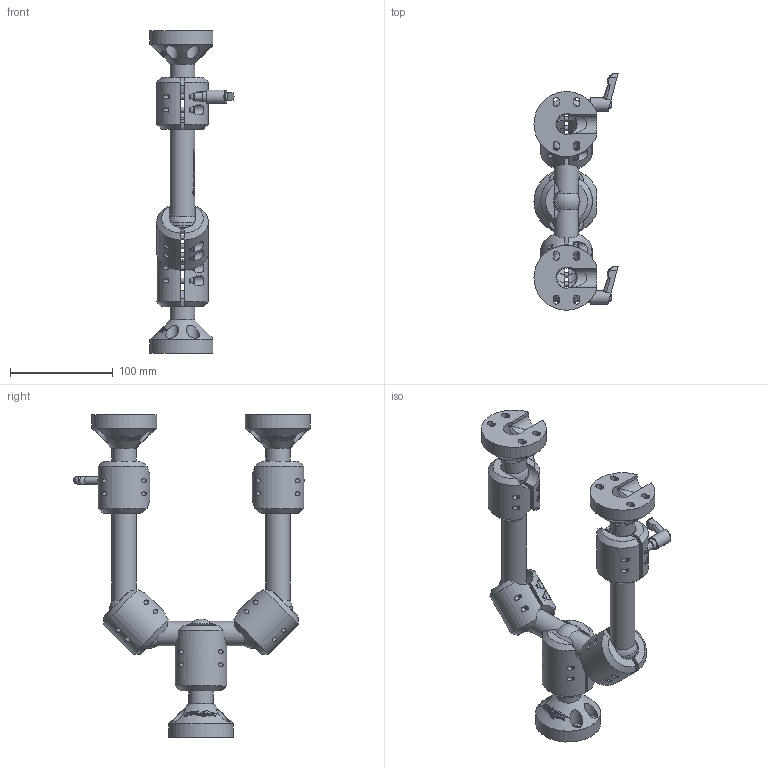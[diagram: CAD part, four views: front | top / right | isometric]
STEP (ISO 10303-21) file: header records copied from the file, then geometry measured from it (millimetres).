
FILE_DESCRIPTION (( 'STEP AP214' ), '1' );
FILE_NAME ('SLM-110100.STEP', '2021-10-26T20:34:18', ( '' ), ( '' ), 'SwSTEP 2.0', 'SolidWorks 2020', '' );
FILE_SCHEMA (( 'AUTOMOTIVE_DESIGN' ));
Length unit declared in the file: inch
Products named in the file (10): SLM-2_Swivellink Etching; SLM-1_Swivellink Etching; SLM-3-100_Swivellink Etching; SLM-Clamp Handle; SLM-2; MSHCS-39547-BO_MSHCS-39547-BO; SLM-290_Swivellink Logo; SLM-110100; SLM-3T; SLM-290
Assembly tree (23 placements, depth 3):
  SLM-110100
    SLM-1_Swivellink Etching  x3
    SLM-290
      MSHCS-39547-BO_MSHCS-39547-BO  x4
      SLM-290_Swivellink Logo
    SLM-3T
    SLM-2  x4
      SLM-2_Swivellink Etching
      MSHCS-39547-BO_MSHCS-39547-BO
    SLM-3-100_Swivellink Etching  x2
    SLM-Clamp Handle  x2
Bounding box: 81.68 x 230.1 x 313.53 mm (x, y, z)
Volume: 388410.1 mm3; surface area: 207488.4 mm2
Topology: 37 solids, 45 shells, 1743 faces, 13752 edges, 12891 vertices
Faces by surface type: cylinder 849, plane 468, cone 333, sphere 43, torus 43, bspline 7
Full cylindrical faces by diameter (mm): 2.459 x2, 4.2 x20, 4.5 x2, 4.877 x2, 5 x24, 5.5 x4, 5.8 x16, 7.938 x2, 8 x2, 8.3 x2, 8.5 x20, 10 x22, 12.7 x12, 13 x2, 19.05 x3, 20.638 x3, 23.812 x5, 23.813 x2, 28.321 x4
Entity records: 73509 total; most frequent: CARTESIAN_POINT 29484, ORIENTED_EDGE 11502, EDGE_CURVE 5753, VERTEX_POINT 5620, DIRECTION 4269, B_SPLINE_CURVE_WITH_KNOTS 3733, AXIS2_PLACEMENT_3D 1627, EDGE_LOOP 1102
